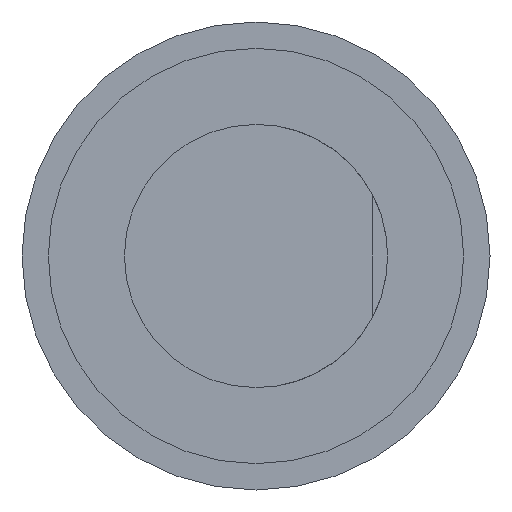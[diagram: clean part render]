
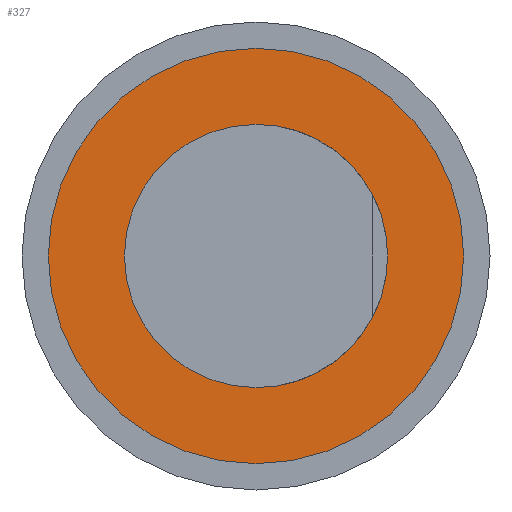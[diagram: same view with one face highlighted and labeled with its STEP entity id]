
A CAD part, front view. The second image highlights one B-rep face of the part: STEP entity #327.
In plain terms, the highlighted planar face has unit normal (0, -1, 0).
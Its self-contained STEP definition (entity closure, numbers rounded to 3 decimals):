
#3 = AXIS2_PLACEMENT_3D ( 'NONE', #526, #570, #388 ) ;
#13 = CARTESIAN_POINT ( 'NONE',  ( 0., 0., 0. ) ) ;
#18 = CARTESIAN_POINT ( 'NONE',  ( 0., 0., 0. ) ) ;
#37 = ORIENTED_EDGE ( 'NONE', *, *, #167, .F. ) ;
#40 = CARTESIAN_POINT ( 'NONE',  ( 0., 0., -4.5 ) ) ;
#41 = DIRECTION ( 'NONE',  ( 0., -1., 0. ) ) ;
#95 = AXIS2_PLACEMENT_3D ( 'NONE', #184, #41, #377 ) ;
#100 = CARTESIAN_POINT ( 'NONE',  ( 0., 0., 7.1 ) ) ;
#132 = EDGE_LOOP ( 'NONE', ( #543, #37 ) ) ;
#159 = EDGE_CURVE ( 'NONE', #432, #550, #446, .T. ) ;
#167 = EDGE_CURVE ( 'NONE', #550, #432, #200, .T. ) ;
#184 = CARTESIAN_POINT ( 'NONE',  ( 0., 0., 0. ) ) ;
#190 = CARTESIAN_POINT ( 'NONE',  ( 0., 0., -7.1 ) ) ;
#193 = VERTEX_POINT ( 'NONE', #271 ) ;
#200 = CIRCLE ( 'NONE', #488, 7.1 ) ;
#251 = DIRECTION ( 'NONE',  ( 0., 0., -1. ) ) ;
#252 = CIRCLE ( 'NONE', #95, 4.5 ) ;
#255 = DIRECTION ( 'NONE',  ( 0., 1., 0. ) ) ;
#266 = FACE_OUTER_BOUND ( 'NONE', #132, .T. ) ;
#271 = CARTESIAN_POINT ( 'NONE',  ( 0., 0., 4.5 ) ) ;
#276 = CARTESIAN_POINT ( 'NONE',  ( 0., 0., 0. ) ) ;
#280 = FACE_BOUND ( 'NONE', #498, .T. ) ;
#300 = DIRECTION ( 'NONE',  ( 0., 0., -1. ) ) ;
#327 = ADVANCED_FACE ( 'NONE', ( #280, #266 ), #375, .F. ) ;
#375 = PLANE ( 'NONE',  #479 ) ;
#377 = DIRECTION ( 'NONE',  ( 0., 0., 1. ) ) ;
#388 = DIRECTION ( 'NONE',  ( 0., 0., 1. ) ) ;
#416 = ORIENTED_EDGE ( 'NONE', *, *, #419, .F. ) ;
#419 = EDGE_CURVE ( 'NONE', #506, #193, #252, .T. ) ;
#430 = CIRCLE ( 'NONE', #3, 4.5 ) ;
#432 = VERTEX_POINT ( 'NONE', #190 ) ;
#443 = AXIS2_PLACEMENT_3D ( 'NONE', #13, #530, #251 ) ;
#446 = CIRCLE ( 'NONE', #443, 7.1 ) ;
#447 = ORIENTED_EDGE ( 'NONE', *, *, #607, .F. ) ;
#479 = AXIS2_PLACEMENT_3D ( 'NONE', #276, #595, #508 ) ;
#488 = AXIS2_PLACEMENT_3D ( 'NONE', #18, #255, #300 ) ;
#498 = EDGE_LOOP ( 'NONE', ( #447, #416 ) ) ;
#506 = VERTEX_POINT ( 'NONE', #40 ) ;
#508 = DIRECTION ( 'NONE',  ( 0., 0., 1. ) ) ;
#526 = CARTESIAN_POINT ( 'NONE',  ( 0., 0., 0. ) ) ;
#530 = DIRECTION ( 'NONE',  ( 0., 1., 0. ) ) ;
#543 = ORIENTED_EDGE ( 'NONE', *, *, #159, .F. ) ;
#550 = VERTEX_POINT ( 'NONE', #100 ) ;
#570 = DIRECTION ( 'NONE',  ( 0., -1., 0. ) ) ;
#595 = DIRECTION ( 'NONE',  ( 0., 1., 0. ) ) ;
#607 = EDGE_CURVE ( 'NONE', #193, #506, #430, .T. ) ;
